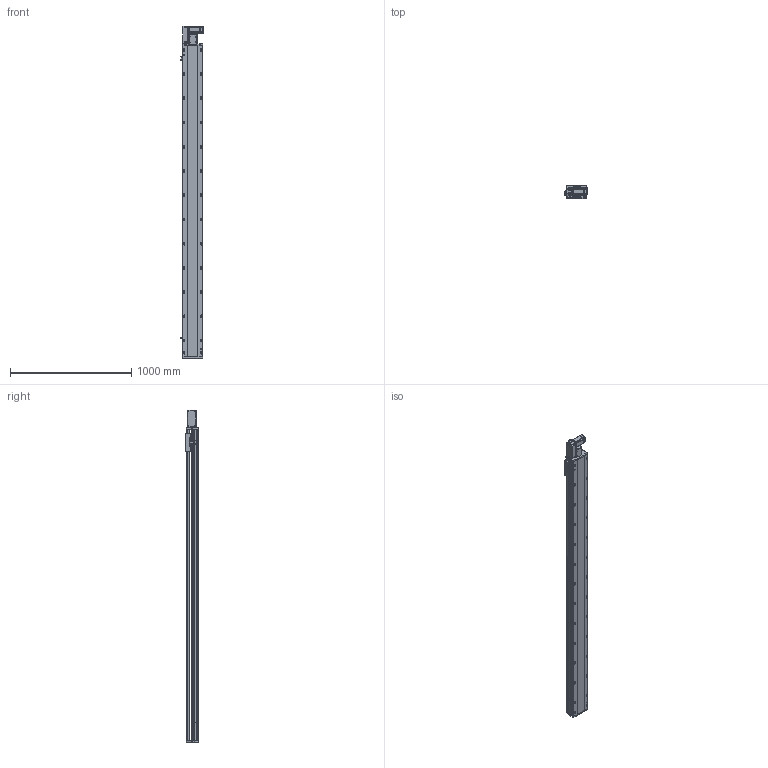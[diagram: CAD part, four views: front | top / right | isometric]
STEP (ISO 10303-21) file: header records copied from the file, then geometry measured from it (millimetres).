
FILE_DESCRIPTION (( 'STEP AP214' ), '1' );
FILE_NAME ('RTB17S-XX-2300-L-M40-C4.STEP', '2025-12-11T05:53:58', ( '' ), ( '' ), 'SwSTEP 2.0', 'SolidWorks 2018', '' );
FILE_SCHEMA (( 'AUTOMOTIVE_DESIGN' ));
Length unit declared in the file: millimetre
Products named in the file (14): RTB14-L-018P^RTB17S-L-皮带座装配-400W_RTB17S-XX-XX-L-M40-C4（方程式）; RTB17S-L-皮带座装配-400W^RTB17S-XX-XX-L-M40-C4（方程式）; RMP17S-L-014-T20--皮带座^RTB17S-L-皮带座装配-400W_RTB17S-XX-XX-L-M40-C4（方程式）; 400W伺服电机^RTB17S-XX-XX-L-M40-C4（方程式）; RTB17S-L-007上盖^RTB17S-XX-XX-L-M40-C4（方程式）; RTB17-R-011底座^RTB17S-XX-XX-L-M40-C4（方程式）; RTB17S-XX-2300-L-M40-C4; RTB17S-L-004丝杆螺母连接座^RTB17S-XX-XX-L-M40-C4（方程式）; RTB14-L-017P^RTB17S-L-皮带座装配-400W_RTB17S-XX-XX-L-M40-C4（方程式）; RTB14-L-008-M20--电机板^RTB17S-L-皮带座装配-400W_RTB17S-XX-XX-L-M40-C4（方程式）; RTB17S-L-001侧面板^RTB17S-XX-XX-L-M40-C4（方程式）; RTB14-L-005P--轴承塑胶压盖^RTB17S-L-皮带座装配-400W_RTB17S-XX-XX-L-M40-C4（方程式）; RTH13-BL-012感应片外置^RTB17S-XX-XX-L-M40-C4（方程式）; OMRON EE-SX672 传感器^RTB17S-XX-XX-L-M40-C4（方程式）
Assembly tree (16 placements, depth 3):
  RTB17S-XX-2300-L-M40-C4
    RTB17-R-011底座^RTB17S-XX-XX-L-M40-C4（方程式）
    RTB17S-L-007上盖^RTB17S-XX-XX-L-M40-C4（方程式）
    OMRON EE-SX672 传感器^RTB17S-XX-XX-L-M40-C4（方程式）  x3
    RTB17S-L-001侧面板^RTB17S-XX-XX-L-M40-C4（方程式）
    400W伺服电机^RTB17S-XX-XX-L-M40-C4（方程式）
    RTB17S-L-004丝杆螺母连接座^RTB17S-XX-XX-L-M40-C4（方程式）
    RTH13-BL-012感应片外置^RTB17S-XX-XX-L-M40-C4（方程式）
    RTB17S-L-皮带座装配-400W^RTB17S-XX-XX-L-M40-C4（方程式）
      RMP17S-L-014-T20--皮带座^RTB17S-L-皮带座装配-400W_RTB17S-XX-XX-L-M40-C4（方程式）
      RTB14-L-005P--轴承塑胶压盖^RTB17S-L-皮带座装配-400W_RTB17S-XX-XX-L-M40-C4（方程式）
      RTB14-L-008-M20--电机板^RTB17S-L-皮带座装配-400W_RTB17S-XX-XX-L-M40-C4（方程式）
      RTB14-L-017P^RTB17S-L-皮带座装配-400W_RTB17S-XX-XX-L-M40-C4（方程式）  x2
      RTB14-L-018P^RTB17S-L-皮带座装配-400W_RTB17S-XX-XX-L-M40-C4（方程式）
Bounding box: 186 x 108 x 2741 mm (x, y, z)
Volume: 22973120.9 mm3; surface area: 2655042.9 mm2
Topology: 15 solids, 15 shells, 2317 faces, 6465 edges, 4221 vertices
Faces by surface type: plane 1082, cylinder 787, bspline 301, cone 139, torus 8
Entity records: 68009 total; most frequent: CARTESIAN_POINT 19270, ORIENTED_EDGE 9774, DIRECTION 9026, EDGE_CURVE 4887, VERTEX_POINT 3209, AXIS2_PLACEMENT_3D 3139, VECTOR 2748, LINE 2748
